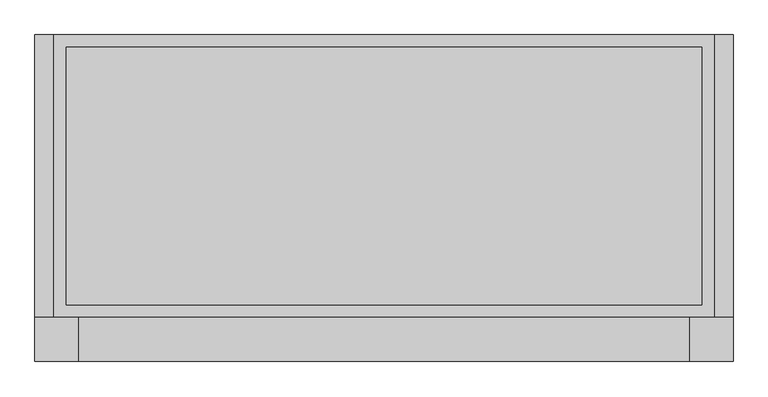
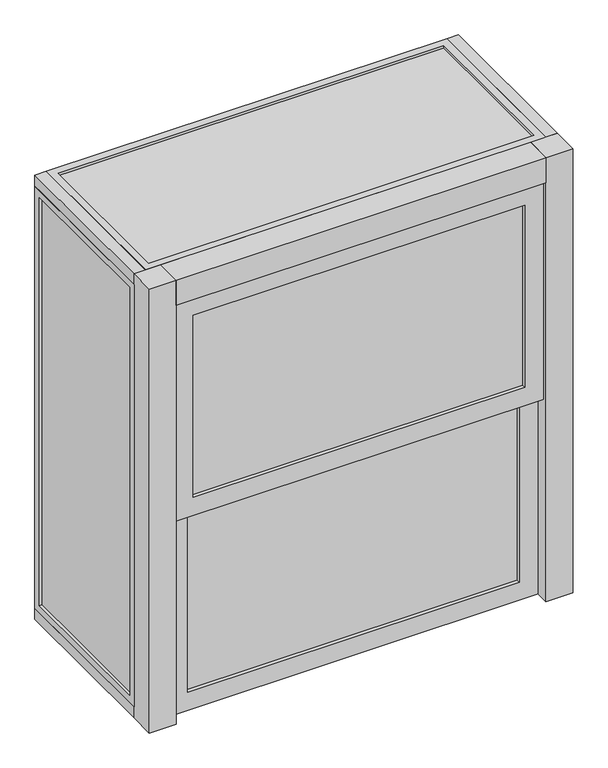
"""IFC4 building model written with IfcOpenShell, lengths in millimetres: furniture geometry, A17 CGAS_INT_AL_Campana de gases_R23 : A17 CGAS_INT_AL_Campana de gases_R23."""

from ifc_helpers import new_model, si_unit, frame, origin, origin_with_axes, place, context, project, spatial, polyline, outline, extrude, source, transform, mapped, element, save


def furniture_3c228907(model_context):
    return source(origin(), model_context, "Body", "SweptSolid", [
        extrude(outline(polyline([(-30.0, 1200.0), (-30.0, 30.0), (-480.0, 30.0), (-480.0, 1200.0), (-30.0, 1200.0)]), holes=[polyline([(-50.0, 1180.0), (-460.0, 1180.0), (-460.0, 50.0), (-50.0, 50.0), (-50.0, 1180.0)])]), frame((-510.2996736, 0.0, 0.0), z_axis=(1.0, 0.0, 0.0), x_axis=(0.0, 1.0, 0.0)), (0.0, 0.0, 1.0), 30.0),
        extrude(outline(polyline([(-480.0, 1200.0), (-30.0, 1200.0), (-30.0, 30.0), (-480.0, 30.0), (-480.0, 1200.0)]), holes=[polyline([(-460.0, 1180.0), (-460.0, 50.0), (-50.0, 50.0), (-50.0, 1180.0), (-460.0, 1180.0)])]), frame((569.7003264, 0.0, 0.0), z_axis=(1.0, 0.0, 0.0), x_axis=(0.0, 1.0, 0.0)), (0.0, 0.0, 1.0), 20.0),
        extrude(outline(polyline([(529.7003264, -480.0), (529.7003264, -550.0), (-440.2996736, -550.0), (-440.2996736, -480.0), (529.7003264, -480.0)])), frame((0.0, 0.0, 1160.0), z_axis=(0.0, 0.0, 1.0), x_axis=(1.0, 0.0, 0.0)), (0.0, 0.0, 1.0), 70.0),
        extrude(outline(polyline([(599.7003264, -480.0), (599.7003264, -550.0), (529.7003264, -550.0), (529.7003264, -480.0), (599.7003264, -480.0)])), origin_with_axes(), (0.0, 0.0, 1.0), 1230.0),
        extrude(outline(polyline([(-440.2996736, -480.0), (-440.2996736, -550.0), (-510.2996736, -550.0), (-510.2996736, -480.0), (-440.2996736, -480.0)])), origin_with_axes(), (0.0, 0.0, 1.0), 1230.0),
        extrude(outline(polyline([(479.7003264, -505.0), (-390.2996736, -505.0), (-390.2996736, -500.0), (479.7003264, -500.0), (479.7003264, -505.0)])), frame((0.0, 0.0, 50.0), z_axis=(0.0, 0.0, 1.0), x_axis=(1.0, 0.0, 0.0)), (0.0, 0.0, 1.0), 505.0),
        extrude(outline(polyline([(605.0, 529.7003264), (605.0, -440.2996736), (0.0, -440.2996736), (0.0, 529.7003264), (605.0, 529.7003264)]), holes=[polyline([(555.0, 479.7003264), (50.0, 479.7003264), (50.0, -390.2996736), (555.0, -390.2996736), (555.0, 479.7003264)])]), frame((0.0, -515.0, 0.0), z_axis=(0.0, 1.0, 0.0), x_axis=(0.0, 0.0, 1.0)), (0.0, 0.0, 1.0), 25.0),
        extrude(outline(polyline([(479.7003264, -530.0), (-390.2996736, -530.0), (-390.2996736, -525.0), (479.7003264, -525.0), (479.7003264, -530.0)])), frame((0.0, 0.0, 605.0), z_axis=(0.0, 0.0, 1.0), x_axis=(1.0, 0.0, 0.0)), (0.0, 0.0, 1.0), 505.0),
        extrude(outline(polyline([(1160.0, 529.7003264), (1160.0, -440.2996736), (555.0, -440.2996736), (555.0, 529.7003264), (1160.0, 529.7003264)]), holes=[polyline([(1110.0, 479.7003264), (605.0, 479.7003264), (605.0, -390.2996736), (1110.0, -390.2996736), (1110.0, 479.7003264)])]), frame((0.0, -540.0, 0.0), z_axis=(0.0, 1.0, 0.0), x_axis=(0.0, 0.0, 1.0)), (0.0, 0.0, 1.0), 25.0),
        extrude(outline(polyline([(549.7003264, -50.0), (549.7003264, -460.0), (-460.2996736, -460.0), (-460.2996736, -50.0), (549.7003264, -50.0)])), frame((0.0, 0.0, 1217.0), z_axis=(0.0, 0.0, 1.0), x_axis=(1.0, 0.0, 0.0)), (0.0, 0.0, 1.0), 6.0),
        extrude(outline(polyline([(569.7003264, -30.0), (569.7003264, -480.0), (-480.2996736, -480.0), (-480.2996736, -30.0), (569.7003264, -30.0)]), holes=[polyline([(549.7003264, -50.0), (-460.2996736, -50.0), (-460.2996736, -460.0), (549.7003264, -460.0), (549.7003264, -50.0)])]), frame((0.0, 0.0, 1210.0), z_axis=(0.0, 0.0, 1.0), x_axis=(1.0, 0.0, 0.0)), (0.0, 0.0, 1.0), 20.0),
        extrude(outline(polyline([(-497.2996736, -50.0), (-497.2996736, -460.0), (-503.2996736, -460.0), (-503.2996736, -50.0), (-497.2996736, -50.0)])), frame((0.0, 0.0, 50.0), z_axis=(0.0, 0.0, 1.0), x_axis=(1.0, 0.0, 0.0)), (0.0, 0.0, 1.0), 1130.0),
        extrude(outline(polyline([(582.7003264, -50.0), (582.7003264, -460.0), (576.7003264, -460.0), (576.7003264, -50.0), (582.7003264, -50.0)])), frame((0.0, 0.0, 50.0), z_axis=(0.0, 0.0, 1.0), x_axis=(1.0, 0.0, 0.0)), (0.0, 0.0, 1.0), 1130.0),
        extrude(outline(polyline([(-480.2996736, -30.0), (-480.2996736, -480.0), (-510.2996736, -480.0), (-510.2996736, -30.0), (-480.2996736, -30.0)])), origin_with_axes(), (0.0, 0.0, 1.0), 30.0),
        extrude(outline(polyline([(599.7003264, -30.0), (599.7003264, -480.0), (569.7003264, -480.0), (569.7003264, -30.0), (599.7003264, -30.0)])), origin_with_axes(), (0.0, 0.0, 1.0), 30.0),
        extrude(outline(polyline([(-480.2996736, -30.0), (-480.2996736, -480.0), (-510.2996736, -480.0), (-510.2996736, -30.0), (-480.2996736, -30.0)])), frame((0.0, 0.0, 1200.0), z_axis=(0.0, 0.0, 1.0), x_axis=(1.0, 0.0, 0.0)), (0.0, 0.0, 1.0), 30.0),
        extrude(outline(polyline([(599.7003264, -30.0), (599.7003264, -480.0), (569.7003264, -480.0), (569.7003264, -30.0), (599.7003264, -30.0)])), frame((0.0, 0.0, 1200.0), z_axis=(0.0, 0.0, 1.0), x_axis=(1.0, 0.0, 0.0)), (0.0, 0.0, 1.0), 30.0),
    ])


if __name__ == "__main__":
    model = new_model("IFC4")
    model_context = context("Model", 3, world=origin())
    ifc_project = project(units=[si_unit("LENGTHUNIT", "METRE", prefix="MILLI")], contexts=[model_context])
    site = spatial("IfcSite", under=ifc_project)
    building = spatial("IfcBuilding", under=site)
    placement = place(None, origin())
    furniture_shape = furniture_3c228907(model_context)
    element("IfcFurniture", 1, ObjectType="A17 CGAS_INT_AL_Campana de gases_R23 : A17 CGAS_INT_AL_Campana de gases_R23", at=placement, inside=building, context=model_context, shape_type="MappedRepresentation", body=[
        mapped(furniture_shape, transform((0.0, 0.0, 0.0), x_axis=(1.0, 0.0, 0.0), y_axis=(0.0, 1.0, 0.0), z_axis=(0.0, 0.0, 1.0))),
    ])
    save(model, "model.ifc")
